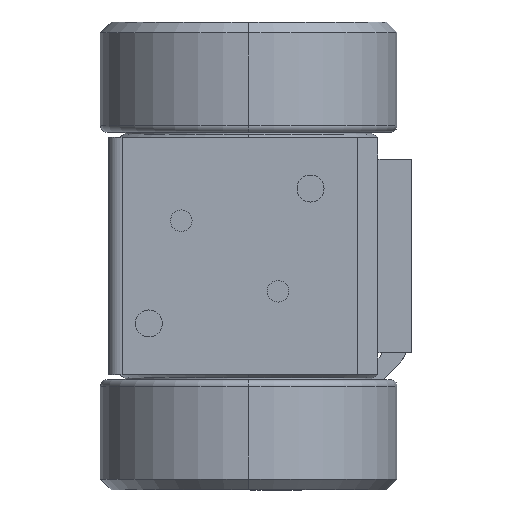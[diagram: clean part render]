
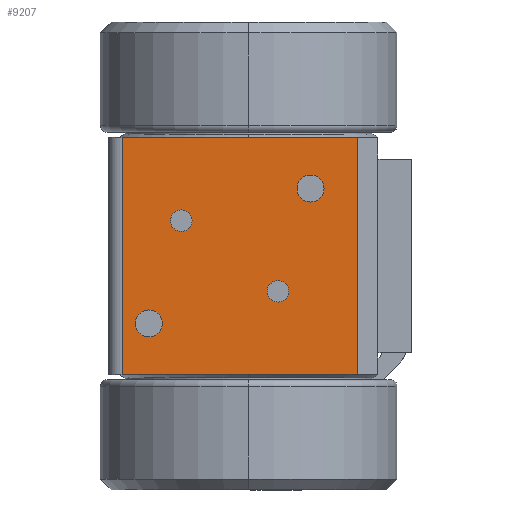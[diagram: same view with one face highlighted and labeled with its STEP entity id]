
A CAD part, left-side view. The second image highlights one B-rep face of the part: STEP entity #9207.
In plain terms, the highlighted planar face has unit normal (-1, 0, 0).
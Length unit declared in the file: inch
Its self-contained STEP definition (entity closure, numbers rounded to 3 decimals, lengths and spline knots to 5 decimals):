
#3694 = CIRCLE ( 'NONE', #24550, 0.2 ) ;
#3982 = CIRCLE ( 'NONE', #24692, 0.2 ) ;
#4005 = CIRCLE ( 'NONE', #24702, 0.25 ) ;
#4033 = CIRCLE ( 'NONE', #24724, 0.25 ) ;
#4115 = CIRCLE ( 'NONE', #24782, 0.25 ) ;
#4905 = CARTESIAN_POINT ( 'NONE',  ( -2.398, 1.2499, 0.65464 ) ) ;
#4906 = DIRECTION ( 'NONE',  ( -1., 0., 0. ) ) ;
#4907 = DIRECTION ( 'NONE',  ( 0., -1., 0. ) ) ;
#5673 = CARTESIAN_POINT ( 'NONE',  ( -2.398, -0.5459, -0.65464 ) ) ;
#5675 = DIRECTION ( 'NONE',  ( -1., 0., 0. ) ) ;
#5677 = DIRECTION ( 'NONE',  ( 0., -1., 0. ) ) ;
#5784 = CARTESIAN_POINT ( 'NONE',  ( -2.398, 1.852, -1.25 ) ) ;
#5786 = DIRECTION ( 'NONE',  ( -1., 0., 0. ) ) ;
#5787 = DIRECTION ( 'NONE',  ( 0., -1., 0. ) ) ;
#5933 = CARTESIAN_POINT ( 'NONE',  ( -2.398, -1.148, 1.25 ) ) ;
#5935 = DIRECTION ( 'NONE',  ( -1., 0., 0. ) ) ;
#5937 = DIRECTION ( 'NONE',  ( 0., -1., 0. ) ) ;
#6760 = CARTESIAN_POINT ( 'NONE',  ( -2.398, -0.3459, -0.65464 ) ) ;
#6762 = CARTESIAN_POINT ( 'NONE',  ( -2.398, -0.7459, -0.65464 ) ) ;
#6768 = CARTESIAN_POINT ( 'NONE',  ( -2.398, 1.4499, 0.65464 ) ) ;
#6770 = CARTESIAN_POINT ( 'NONE',  ( -2.398, 1.0499, 0.65464 ) ) ;
#6775 = CARTESIAN_POINT ( 'NONE',  ( -2.398, 2.102, -1.25 ) ) ;
#6777 = CARTESIAN_POINT ( 'NONE',  ( -2.398, 1.602, -1.25 ) ) ;
#6783 = CARTESIAN_POINT ( 'NONE',  ( -2.398, -0.898, 1.25 ) ) ;
#6785 = CARTESIAN_POINT ( 'NONE',  ( -2.398, -1.398, 1.25 ) ) ;
#7274 = VERTEX_POINT ( 'NONE', #28325 ) ;
#7300 = VERTEX_POINT ( 'NONE', #28337 ) ;
#7326 = VERTEX_POINT ( 'NONE', #28349 ) ;
#7328 = VERTEX_POINT ( 'NONE', #28350 ) ;
#7612 = CARTESIAN_POINT ( 'NONE',  ( -2.398, 1.852, -1.25 ) ) ;
#7613 = DIRECTION ( 'NONE',  ( -1., 0., 0. ) ) ;
#7614 = DIRECTION ( 'NONE',  ( 0., -1., 0. ) ) ;
#9207 = ADVANCED_FACE ( 'NONE', ( #19739, #19743, #19740, #19738, #19741 ), #20580, .F. ) ;
#9658 = CIRCLE ( 'NONE', #24820, 0.25 ) ;
#9661 = CIRCLE ( 'NONE', #24822, 0.2 ) ;
#9873 = LINE ( 'NONE', #11105, #9876 ) ;
#9876 = VECTOR ( 'NONE', #11107, 39.37008 ) ;
#9878 = LINE ( 'NONE', #11119, #9881 ) ;
#9881 = VECTOR ( 'NONE', #11120, 39.37008 ) ;
#9905 = LINE ( 'NONE', #11209, #9908 ) ;
#9908 = VECTOR ( 'NONE', #11210, 39.37008 ) ;
#9933 = LINE ( 'NONE', #11328, #9944 ) ;
#9944 = VECTOR ( 'NONE', #11344, 39.37008 ) ;
#10083 = CIRCLE ( 'NONE', #24904, 0.2 ) ;
#10539 = CARTESIAN_POINT ( 'NONE',  ( -2.398, -1.148, 1.25 ) ) ;
#10541 = DIRECTION ( 'NONE',  ( -1., 0., 0. ) ) ;
#10543 = DIRECTION ( 'NONE',  ( 0., -1., 0. ) ) ;
#10592 = CARTESIAN_POINT ( 'NONE',  ( -2.398, 1.2499, 0.65464 ) ) ;
#10594 = DIRECTION ( 'NONE',  ( -1., 0., 0. ) ) ;
#10596 = DIRECTION ( 'NONE',  ( 0., -1., 0. ) ) ;
#11105 = CARTESIAN_POINT ( 'NONE',  ( -2.398, 2.348, -2.202 ) ) ;
#11107 = DIRECTION ( 'NONE',  ( 0., 0., -1. ) ) ;
#11119 = CARTESIAN_POINT ( 'NONE',  ( -2.398, 2.598, -2.202 ) ) ;
#11120 = DIRECTION ( 'NONE',  ( 0., -1., 0. ) ) ;
#11209 = CARTESIAN_POINT ( 'NONE',  ( -2.398, 2.598, 2.202 ) ) ;
#11210 = DIRECTION ( 'NONE',  ( 0., -1., 0. ) ) ;
#11328 = CARTESIAN_POINT ( 'NONE',  ( -2.398, -2.023, -3.387 ) ) ;
#11344 = DIRECTION ( 'NONE',  ( 0., 0., 1. ) ) ;
#11792 = CARTESIAN_POINT ( 'NONE',  ( -2.398, -0.5459, -0.65464 ) ) ;
#11793 = DIRECTION ( 'NONE',  ( -1., 0., 0. ) ) ;
#11794 = DIRECTION ( 'NONE',  ( 0., -1., 0. ) ) ;
#16253 = EDGE_CURVE ( 'NONE', #28902, #28903, #3694, .T. ) ;
#16449 = EDGE_CURVE ( 'NONE', #28898, #28899, #3982, .T. ) ;
#16464 = EDGE_CURVE ( 'NONE', #28906, #28907, #4005, .T. ) ;
#16483 = EDGE_CURVE ( 'NONE', #28910, #28911, #4033, .T. ) ;
#19738 = FACE_BOUND ( 'NONE', #41041, .T. ) ;
#19739 = FACE_BOUND ( 'NONE', #41055, .T. ) ;
#19740 = FACE_BOUND ( 'NONE', #41038, .T. ) ;
#19741 = FACE_OUTER_BOUND ( 'NONE', #41070, .T. ) ;
#19743 = FACE_BOUND ( 'NONE', #41042, .T. ) ;
#20571 = DIRECTION ( 'NONE',  ( 1., 0., 0. ) ) ;
#20580 = PLANE ( 'NONE',  #34294 ) ;
#20582 = CARTESIAN_POINT ( 'NONE',  ( -2.398, 2.598, 2.202 ) ) ;
#20584 = DIRECTION ( 'NONE',  ( 0., 1., 0. ) ) ;
#24550 = AXIS2_PLACEMENT_3D ( 'NONE', #4905, #4906, #4907 ) ;
#24692 = AXIS2_PLACEMENT_3D ( 'NONE', #5673, #5675, #5677 ) ;
#24702 = AXIS2_PLACEMENT_3D ( 'NONE', #5784, #5786, #5787 ) ;
#24724 = AXIS2_PLACEMENT_3D ( 'NONE', #5933, #5935, #5937 ) ;
#24782 = AXIS2_PLACEMENT_3D ( 'NONE', #7612, #7613, #7614 ) ;
#24820 = AXIS2_PLACEMENT_3D ( 'NONE', #10539, #10541, #10543 ) ;
#24822 = AXIS2_PLACEMENT_3D ( 'NONE', #10592, #10594, #10596 ) ;
#24904 = AXIS2_PLACEMENT_3D ( 'NONE', #11792, #11793, #11794 ) ;
#28325 = CARTESIAN_POINT ( 'NONE',  ( -2.398, 2.348, -2.202 ) ) ;
#28337 = CARTESIAN_POINT ( 'NONE',  ( -2.398, -2.023, -2.202 ) ) ;
#28349 = CARTESIAN_POINT ( 'NONE',  ( -2.398, 2.348, 2.202 ) ) ;
#28350 = CARTESIAN_POINT ( 'NONE',  ( -2.398, -2.023, 2.202 ) ) ;
#28898 = VERTEX_POINT ( 'NONE', #6760 ) ;
#28899 = VERTEX_POINT ( 'NONE', #6762 ) ;
#28902 = VERTEX_POINT ( 'NONE', #6768 ) ;
#28903 = VERTEX_POINT ( 'NONE', #6770 ) ;
#28906 = VERTEX_POINT ( 'NONE', #6775 ) ;
#28907 = VERTEX_POINT ( 'NONE', #6777 ) ;
#28910 = VERTEX_POINT ( 'NONE', #6783 ) ;
#28911 = VERTEX_POINT ( 'NONE', #6785 ) ;
#34294 = AXIS2_PLACEMENT_3D ( 'NONE', #20582, #20571, #20584 ) ;
#36521 = EDGE_CURVE ( 'NONE', #28907, #28906, #4115, .T. ) ;
#36708 = EDGE_CURVE ( 'NONE', #28911, #28910, #9658, .T. ) ;
#36711 = EDGE_CURVE ( 'NONE', #28903, #28902, #9661, .T. ) ;
#36804 = EDGE_CURVE ( 'NONE', #7326, #7274, #9873, .T. ) ;
#36808 = EDGE_CURVE ( 'NONE', #7274, #7300, #9878, .T. ) ;
#36825 = EDGE_CURVE ( 'NONE', #7326, #7328, #9905, .T. ) ;
#36850 = EDGE_CURVE ( 'NONE', #7300, #7328, #9933, .T. ) ;
#36946 = EDGE_CURVE ( 'NONE', #28899, #28898, #10083, .T. ) ;
#41038 = EDGE_LOOP ( 'NONE', ( #43454, #43455 ) ) ;
#41041 = EDGE_LOOP ( 'NONE', ( #43456, #43457 ) ) ;
#41042 = EDGE_LOOP ( 'NONE', ( #43452, #43453 ) ) ;
#41055 = EDGE_LOOP ( 'NONE', ( #43450, #43451 ) ) ;
#41070 = EDGE_LOOP ( 'NONE', ( #43458, #43459, #43460, #43461 ) ) ;
#43450 = ORIENTED_EDGE ( 'NONE', *, *, #36946, .F. ) ;
#43451 = ORIENTED_EDGE ( 'NONE', *, *, #16449, .F. ) ;
#43452 = ORIENTED_EDGE ( 'NONE', *, *, #36711, .F. ) ;
#43453 = ORIENTED_EDGE ( 'NONE', *, *, #16253, .F. ) ;
#43454 = ORIENTED_EDGE ( 'NONE', *, *, #36521, .F. ) ;
#43455 = ORIENTED_EDGE ( 'NONE', *, *, #16464, .F. ) ;
#43456 = ORIENTED_EDGE ( 'NONE', *, *, #36708, .F. ) ;
#43457 = ORIENTED_EDGE ( 'NONE', *, *, #16483, .F. ) ;
#43458 = ORIENTED_EDGE ( 'NONE', *, *, #36808, .T. ) ;
#43459 = ORIENTED_EDGE ( 'NONE', *, *, #36850, .T. ) ;
#43460 = ORIENTED_EDGE ( 'NONE', *, *, #36825, .F. ) ;
#43461 = ORIENTED_EDGE ( 'NONE', *, *, #36804, .T. ) ;
